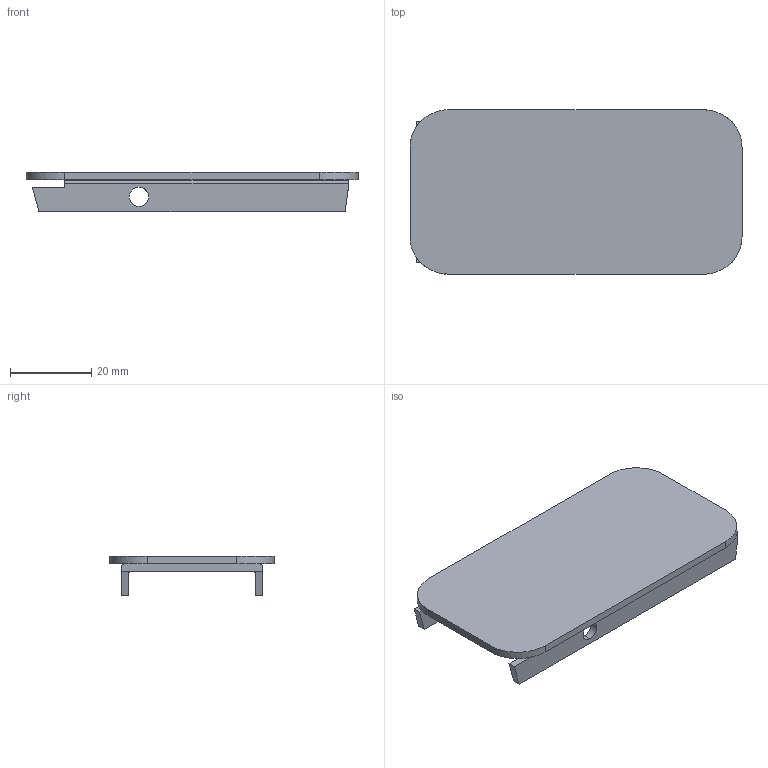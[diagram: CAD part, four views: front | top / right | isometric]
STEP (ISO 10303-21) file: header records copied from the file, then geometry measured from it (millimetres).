
FILE_DESCRIPTION(('TurboCAD Mac Pro'),'Build 980');
FILE_NAME('P5280.stp',' ',(''),(''),'ACIS Interop','IMSI','TurboCAD Mac Pro BY IMSI, INCORPORATED');
FILE_SCHEMA(('automotive_design'));
Length unit declared in the file: inch
Products named in the file (1): 1
Bounding box: 81.75 x 40.48 x 9.84 mm (x, y, z)
Volume: 12483.6 mm3; surface area: 9414 mm2
Topology: 1 solids, 1 shells, 41 faces, 116 edges, 76 vertices
Faces by surface type: plane 21, bspline 12, cylinder 8
Entity records: 1774 total; most frequent: CARTESIAN_POINT 430, ORIENTED_EDGE 232, DIRECTION 160, EDGE_CURVE 116, VERTEX_POINT 76, LINE 76, VECTOR 76, EDGE_LOOP 44
